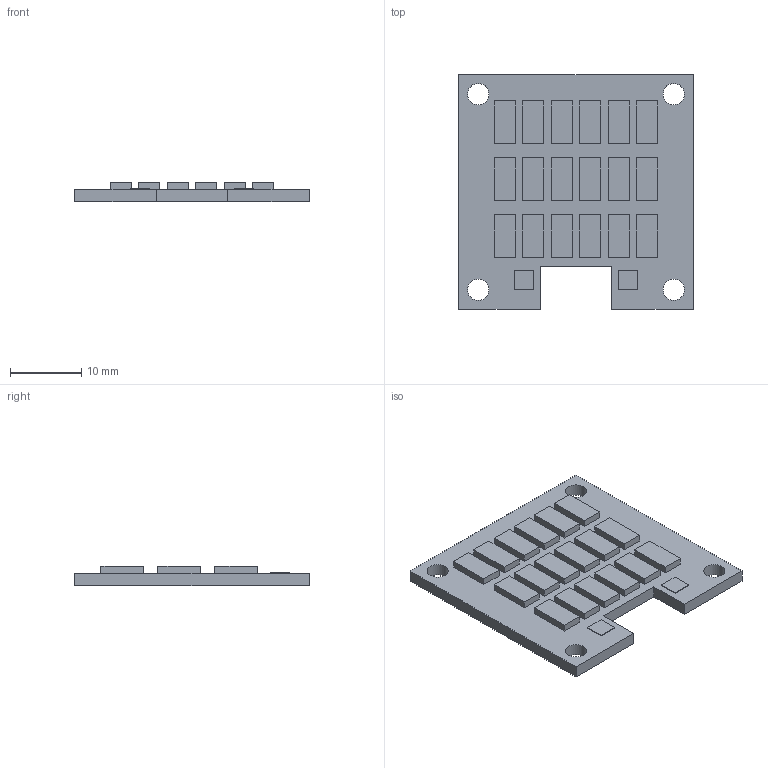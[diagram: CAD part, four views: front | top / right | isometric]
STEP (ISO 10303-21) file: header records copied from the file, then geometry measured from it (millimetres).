
FILE_DESCRIPTION(('ML18R1AL'),'2;1');
FILE_NAME('Z:\Mixdeal\Catalogo\Modelos 3D\STEP\ML18R1AL.stp','2015-06-26T15:29:13',('Nicolas Kretzig'),('MIXDEAL SA'),'Autodesk Inventor 2011','Autodesk Inventor 2011','');
FILE_SCHEMA(('AUTOMOTIVE_DESIGN { 1 0 10303 214 1 1 1 1 }'));
Length unit declared in the file: millimetre
Products named in the file (1): ML18R1AL
Bounding box: 33 x 33 x 2.75 mm (x, y, z)
Volume: 2076.7 mm3; surface area: 2645.6 mm2
Topology: 1 solids, 1 shells, 114 faces, 280 edges, 188 vertices
Faces by surface type: plane 110, cylinder 4
Full cylindrical faces by diameter (mm): 3 x4
Entity records: 3401 total; most frequent: CARTESIAN_POINT 571, ORIENTED_EDGE 544, DIRECTION 510, EDGE_CURVE 272, VECTOR 264, LINE 264, VERTEX_POINT 184, EDGE_LOOP 146
